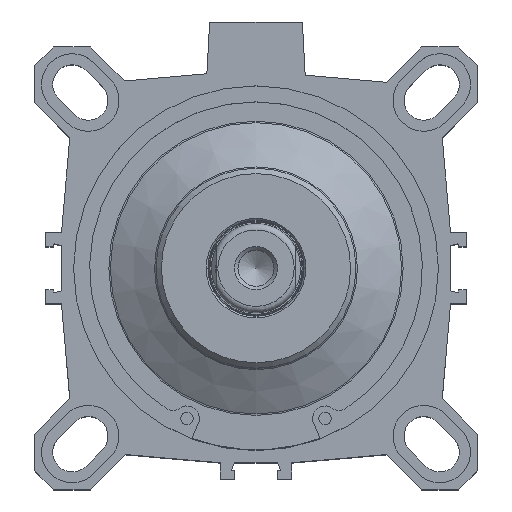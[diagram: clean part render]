
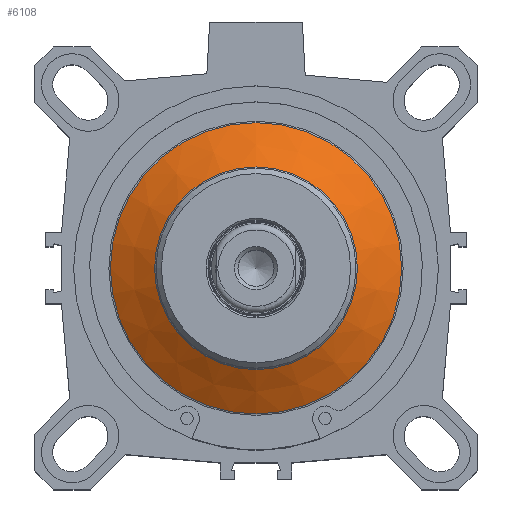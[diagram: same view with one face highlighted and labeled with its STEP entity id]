
A CAD part, top view. The second image highlights one B-rep face of the part: STEP entity #6108.
In plain terms, the highlighted conical face has half-angle 60 degrees and reference radius 34.607 mm.
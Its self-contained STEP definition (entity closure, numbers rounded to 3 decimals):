
#65=CONICAL_SURFACE('',#6563,34.607,1.047);
#1905=ORIENTED_EDGE('',*,*,#2558,.T.);
#1906=ORIENTED_EDGE('',*,*,#2557,.F.);
#2557=EDGE_CURVE('',#2987,#2987,#3214,.T.);
#2558=EDGE_CURVE('',#2988,#2988,#3215,.T.);
#2987=VERTEX_POINT('',#9203);
#2988=VERTEX_POINT('',#9206);
#3214=CIRCLE('',#6562,28.4);
#3215=CIRCLE('',#6564,40.814);
#3557=EDGE_LOOP('',(#1905));
#3558=EDGE_LOOP('',(#1906));
#3918=FACE_BOUND('',#3557,.T.);
#3919=FACE_BOUND('',#3558,.T.);
#6108=ADVANCED_FACE('',(#3918,#3919),#65,.T.);
#6562=AXIS2_PLACEMENT_3D('',#9202,#7754,#7755);
#6563=AXIS2_PLACEMENT_3D('',#9204,#7756,#7757);
#6564=AXIS2_PLACEMENT_3D('',#9205,#7758,#7759);
#7754=DIRECTION('',(0.,0.,1.));
#7755=DIRECTION('',(0.,1.,0.));
#7756=DIRECTION('',(0.,0.,-1.));
#7757=DIRECTION('',(0.,1.,0.));
#7758=DIRECTION('',(0.,0.,1.));
#7759=DIRECTION('',(0.,1.,0.));
#9202=CARTESIAN_POINT('',(0.,0.,104.125));
#9203=CARTESIAN_POINT('',(0.,28.4,104.125));
#9204=CARTESIAN_POINT('',(0.,0.,100.541));
#9205=CARTESIAN_POINT('',(0.,0.,96.957));
#9206=CARTESIAN_POINT('',(0.,40.814,96.957));
